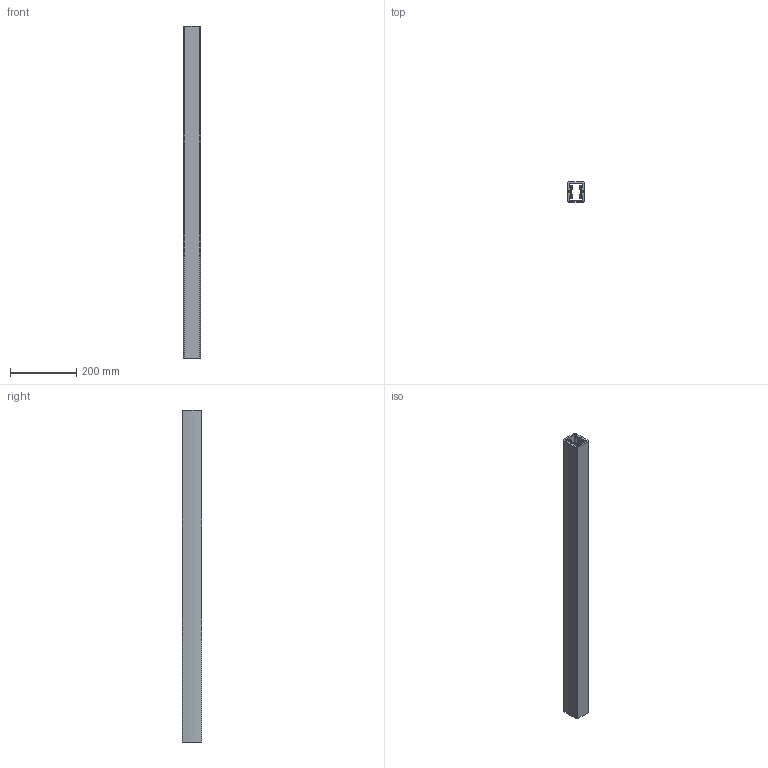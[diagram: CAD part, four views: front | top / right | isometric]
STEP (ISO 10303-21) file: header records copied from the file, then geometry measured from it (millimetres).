
FILE_DESCRIPTION((''),'2;1');
FILE_NAME('9524032000_ASM','2024-03-21T11:15:56',('dirk.bredemeier'),(''),'CREO PARAMETRIC BY PTC INC, 2022124','CREO PARAMETRIC BY PTC INC, 2022124','');
FILE_SCHEMA(('AUTOMOTIVE_DESIGN { 1 0 10303 214 1 1 1 1 }'));
Length unit declared in the file: millimetre
Products named in the file (2): 9206099000_AF9; 9524032000_ASM
Assembly tree (1 placements, depth 2):
  9524032000_ASM
    9206099000_AF9
Bounding box: 53.58 x 60 x 1000 mm (x, y, z)
Volume: 1511979.8 mm3; surface area: 563476.3 mm2
Topology: 1 solids, 1 shells, 46 faces, 167 edges, 158 vertices
Faces by surface type: cylinder 40, plane 6
Entity records: 3676 total; most frequent: CARTESIAN_POINT 998, DIRECTION 471, ORIENTED_EDGE 264, PRESENTATION_STYLE_ASSIGNMENT 210, CURVE_STYLE 206, STYLED_ITEM 206, AXIS2_PLACEMENT_3D 186, COLOUR_RGB 145
